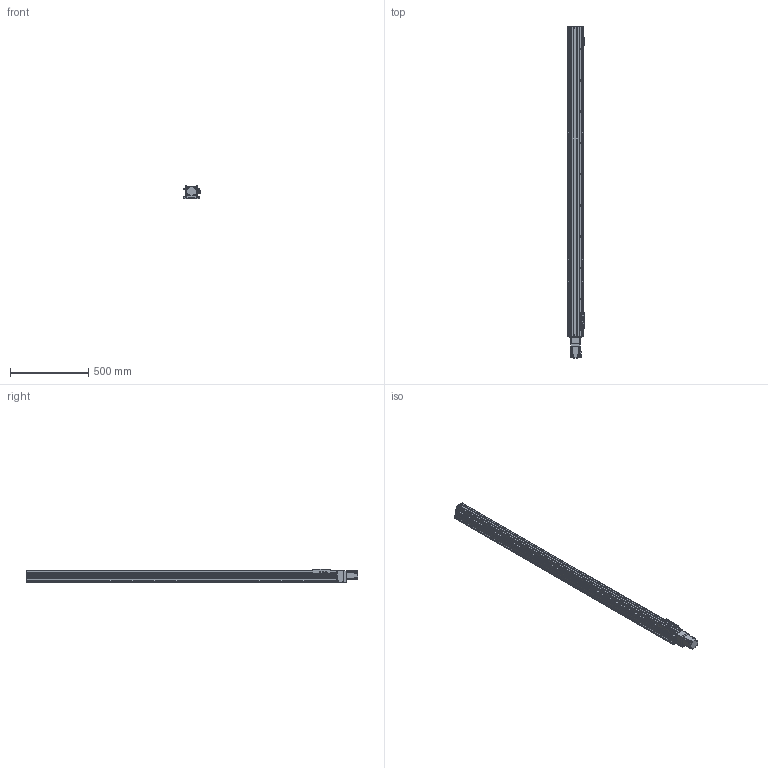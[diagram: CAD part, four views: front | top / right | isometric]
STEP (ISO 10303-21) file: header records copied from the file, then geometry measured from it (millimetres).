
FILE_DESCRIPTION(/* description */ ('MANUFACTURE'),/* implementation_level */ '2;1');
FILE_NAME(/* name */ '\\192.168.0.160\disk1\HAN SHIN Master\B-설계부문\C-표준\B-2024년\BC02-표준도면\+로봇 개선표준도면\표준 승인도 폴더 - 재작업\3D\HS Type\HS75\S-Type\HS75-S20-N1B-1800-R10.stp',/* time_stamp */ '2024-05-28T13:45:37+09:00',/* author */ ('User'),/* organization */ (''),/* preprocessor_version */ 'ST-DEVELOPER v18.1',/* originating_system */ 'Autodesk Inventor 2022',/* authorisation */ 'LIP');
FILE_SCHEMA (('AUTOMOTIVE_DESIGN { 1 0 10303 214 3 1 1 }'));
Products named in the file (28): HS75-S20-N1B-0500-R10 - 간소화; HS75 100W S BASE; UPCOVER; HS75 REAR BLOCK; SDWA-31C-10x14(00-00); HS75 FRONT BLOCK-AN; HS75 FRONT BLOCK; 7001ADF; BEARING COVER(∅15); SPACER(∅15); RN12; HS75 FRONT COVER; HS75 FRONT COVER_1; COUPLING COVER; HS75 SIDE COVER; HS75 SENSOR DOG-1; NIPPLE CAP(신규); hsr_ftht_A-M6F_grease_nipple_joint; SENSOR BRK(EE-SX674A); EE_SX674A; M3-5(렌치볼트); HG75 S MOTOR PLATE-B; HG75 S MOTOR PLATE-M; hg-kr23_; HG90STOPPER - 17L; LMKE1520 NUT; HS75 TABLE - 1BLOCK; HS75 SIDE COVER (100W, 1B)_MIR
Assembly tree (37 placements, depth 3):
  HS75-S20-N1B-0500-R10 - 간소화
    HS75 100W S BASE
    UPCOVER
    HS75 REAR BLOCK
    SDWA-31C-10x14(00-00)
    HS75 FRONT BLOCK-AN
      HS75 FRONT BLOCK
      7001ADF
      BEARING COVER(∅15)
      SPACER(∅15)
      RN12
    HS75 FRONT COVER
    HS75 FRONT COVER_1
    HG90STOPPER - 17L  x2
    COUPLING COVER
    SENSOR BRK(EE-SX674A)  x3
    EE_SX674A  x3
    hsr_ftht_A-M6F_grease_nipple_joint  x2
    NIPPLE CAP(신규)  x2
    HS75 SIDE COVER
    HS75 SENSOR DOG-1
    M3-5(렌치볼트)  x4
    HG75 S MOTOR PLATE-B
    HG75 S MOTOR PLATE-M
    hg-kr23_
    LMKE1520 NUT
    HS75 TABLE - 1BLOCK
    HS75 SIDE COVER (100W, 1B)_MIR
Bounding box: 105.96 x 2125.6 x 85 mm (x, y, z)
Volume: 4840369.6 mm3; surface area: 1683839.6 mm2
Topology: 59 solids, 59 shells, 2333 faces, 6617 edges, 4315 vertices
Faces by surface type: plane 1154, cylinder 827, cone 232, torus 74, sphere 38, bspline 8
Full cylindrical faces by diameter (mm): 2.013 x2, 2.459 x20, 2.85 x4, 3 x12, 3.1 x1, 3.242 x60, 3.3 x2, 3.5 x6, 4 x18, 4.134 x52, 4.5 x53, 4.917 x23, 5 x28, 5.5 x16, 5.6 x10, 5.8 x4, 5.9 x10, 6 x6, 6.05 x4, 6.45 x6, 6.5 x4, 7.2 x2, 7.5 x4, 8 x7, 9.5 x10, 10 x1, 10.8 x1, 12 x3, 14 x2, 14.4 x3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
Entity records: 71397 total; most frequent: CARTESIAN_POINT 15279, DIRECTION 11738, ORIENTED_EDGE 11406, EDGE_CURVE 5703, AXIS2_PLACEMENT_3D 4351, VERTEX_POINT 3881, LINE 3036, VECTOR 3036
